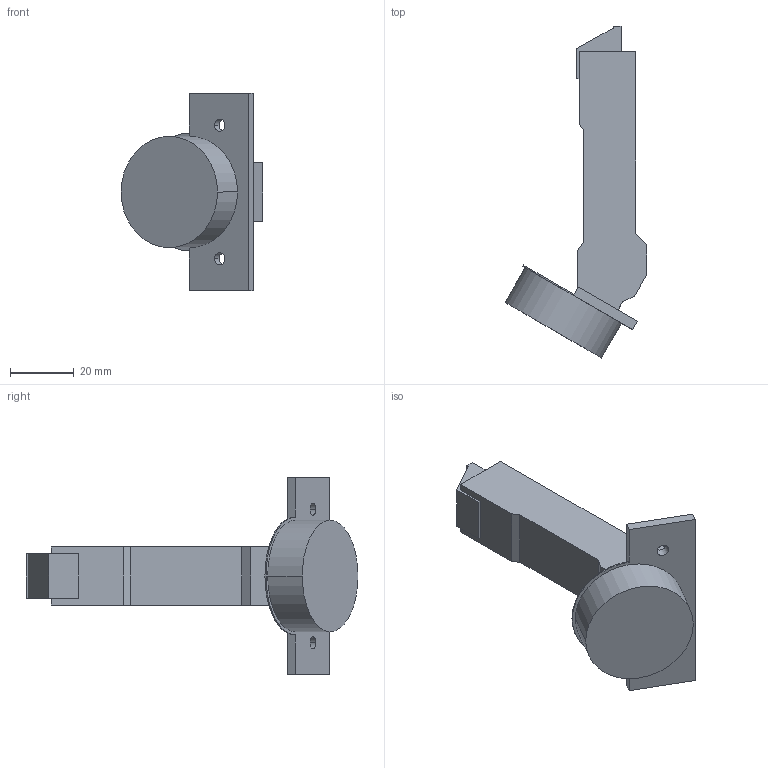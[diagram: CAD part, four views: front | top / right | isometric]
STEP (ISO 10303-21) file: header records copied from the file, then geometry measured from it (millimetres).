
FILE_DESCRIPTION (( 'STEP AP214' ), '1' );
FILE_NAME ('Scharnier TS Click-on 110°_+30° G_BB, aufliegend.step', '2010-12-13T10:20:22', ( 'grass' ), ( '' ), 'SwSTEP 2.0', 'SolidWorks 2010', '' );
FILE_SCHEMA (( 'AUTOMOTIVE_DESIGN' ));
Length unit declared in the file: millimetre
Products named in the file (1): Scharnier TS Click-on 110°_+30° G_BB, aufliegend
Bounding box: 44.59 x 104.36 x 62 mm (x, y, z)
Volume: 42507 mm3; surface area: 11858.4 mm2
Topology: 1 solids, 1 shells, 48 faces, 126 edges, 84 vertices
Faces by surface type: plane 35, cylinder 13
Entity records: 1518 total; most frequent: CARTESIAN_POINT 259, ORIENTED_EDGE 252, DIRECTION 250, EDGE_CURVE 126, VECTOR 100, LINE 100, VERTEX_POINT 84, AXIS2_PLACEMENT_3D 75
